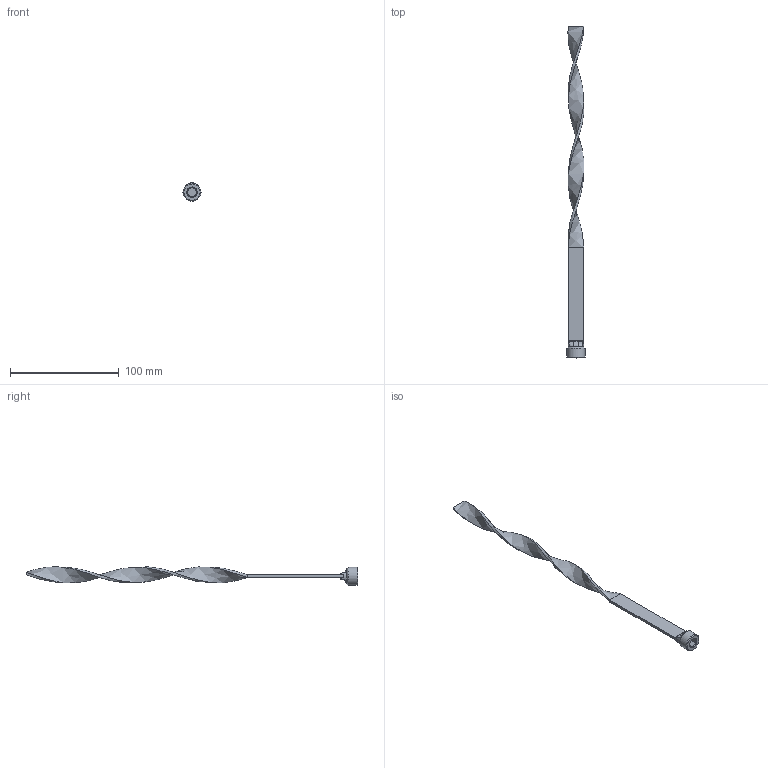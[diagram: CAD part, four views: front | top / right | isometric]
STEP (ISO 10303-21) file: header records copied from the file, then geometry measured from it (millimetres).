
FILE_DESCRIPTION(/* description */ (''),/* implementation_level */ '2;1');
FILE_NAME(/* name */ 'C:/Users/drich/Desktop/TB38X12BSP v1.step',/* time_stamp */ '2020-01-14T09:26:09-06:00',/* author */ (''),/* organization */ (''),/* preprocessor_version */ 'ST-DEVELOPER v18',/* originating_system */ 'Autodesk Translation Framework v8.12.0.6',/* authorisation */ '');
FILE_SCHEMA (('AUTOMOTIVE_DESIGN { 1 0 10303 214 3 1 1 }'));
Length unit declared in the file: inch
Products named in the file (1): TB38X12BSP
Bounding box: 16.54 x 304.8 x 16.87 mm (x, y, z)
Volume: 11940.9 mm3; surface area: 10961.1 mm2
Topology: 2 solids, 2 shells, 57 faces, 141 edges, 90 vertices
Faces by surface type: plane 26, bspline 12, cylinder 8, torus 8, cone 3
Full cylindrical faces by diameter (mm): 7.874 x1, 16.537 x1
Entity records: 2591 total; most frequent: CARTESIAN_POINT 1308, ORIENTED_EDGE 282, DIRECTION 219, EDGE_CURVE 141, VERTEX_POINT 90, AXIS2_PLACEMENT_3D 84, EDGE_LOOP 59, FACE_OUTER_BOUND 57
